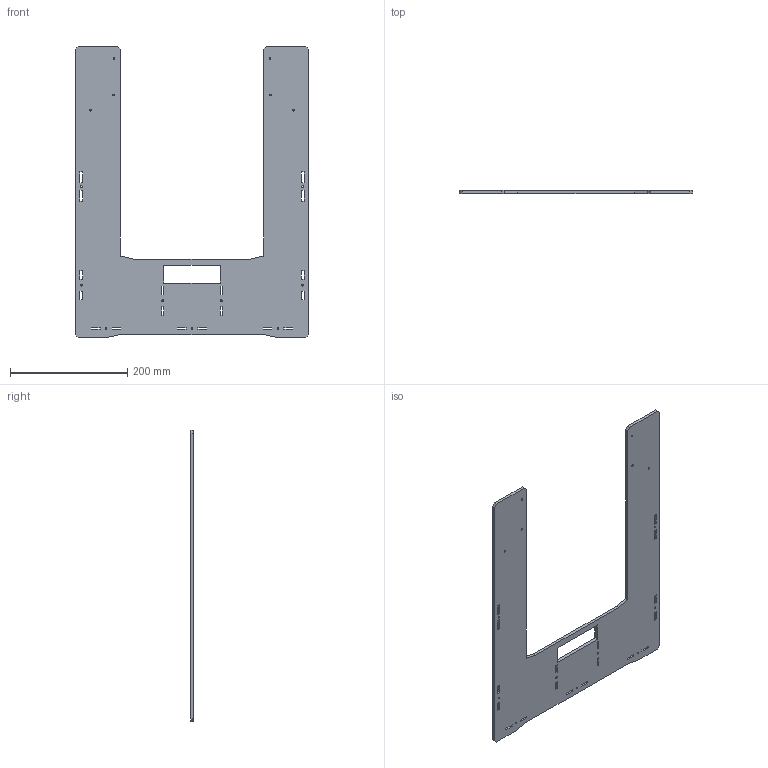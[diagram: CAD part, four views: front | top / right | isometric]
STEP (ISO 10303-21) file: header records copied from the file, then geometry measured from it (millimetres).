
FILE_DESCRIPTION(/* description */ (''),/* implementation_level */ '2;1');
FILE_NAME(/* name */ 'TAPAFR~2',/* time_stamp */ '2019-04-01T19:58:03-03:00',/* author */ (''),/* organization */ (''),/* preprocessor_version */ 'ST-DEVELOPER v16.5',/* originating_system */ '',/* authorisation */ '');
FILE_SCHEMA (('AUTOMOTIVE_DESIGN'));
Length unit declared in the file: millimetre
Products named in the file (1): Document
Bounding box: 398 x 5 x 496.35 mm (x, y, z)
Volume: 494798.5 mm3; surface area: 196909.5 mm2
Topology: 1 solids, 1 shells, 128 faces, 378 edges, 252 vertices
Faces by surface type: plane 98, bspline 30
Entity records: 4157 total; most frequent: CARTESIAN_POINT 1644, ORIENTED_EDGE 756, EDGE_CURVE 378, B_SPLINE_CURVE_WITH_KNOTS 288, VERTEX_POINT 252, EDGE_LOOP 196, ADVANCED_FACE 128, FACE_OUTER_BOUND 128
